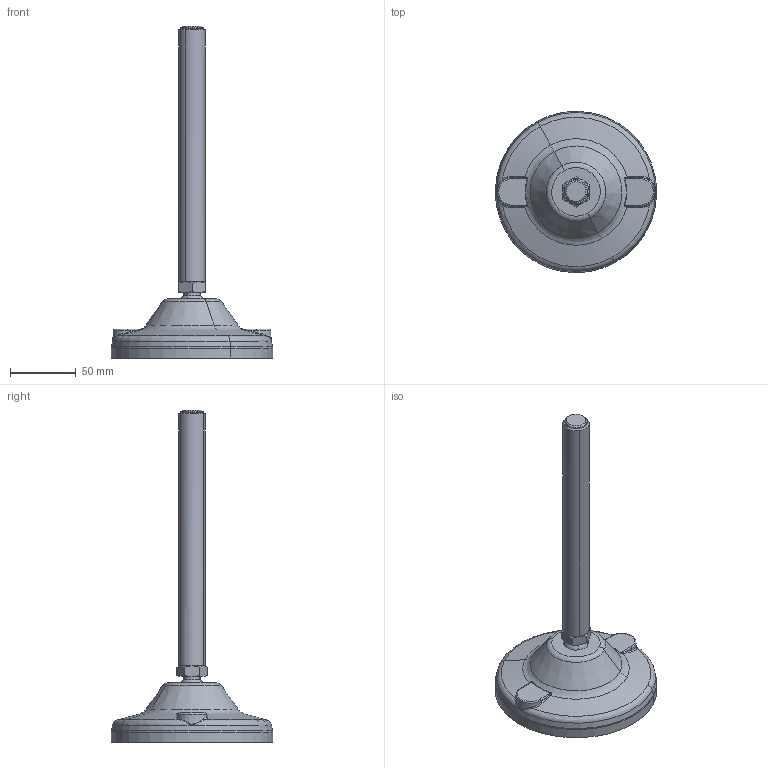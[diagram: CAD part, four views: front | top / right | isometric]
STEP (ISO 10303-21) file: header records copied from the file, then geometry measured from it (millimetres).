
FILE_DESCRIPTION(('CATIA V5 STEP Exchange'),'2;1');
FILE_NAME('C:\Users\dentellad\Desktop\TEMP\P94953H_01.stp','2017-05-15T06:25:02+00:00',('none'),('none'),'Version 5-6 Release 2012','CATIA V5 STEP AP203','none');
FILE_SCHEMA(('CONFIG_CONTROL_DESIGN'));
Length unit declared in the file: millimetre
Products named in the file (1): Product2
Assembly tree (2 placements, depth 2):
  Product2
    #58
    #42596
Bounding box: 122.97 x 122.97 x 253 mm (x, y, z)
Volume: 202403.3 mm3; surface area: 77118.3 mm2
Topology: 2 solids, 2 shells, 1072 faces, 2805 edges, 1745 vertices
Faces by surface type: plane 494, bspline 214, torus 158, cylinder 112, cone 74, sphere 20
Entity records: 43739 total; most frequent: CARTESIAN_POINT 22185, ORIENTED_EDGE 5598, EDGE_CURVE 2799, DIRECTION 2537, VERTEX_POINT 1745, B_SPLINE_CURVE_WITH_KNOTS 1622, AXIS2_PLACEMENT_3D 1256, EDGE_LOOP 1088
